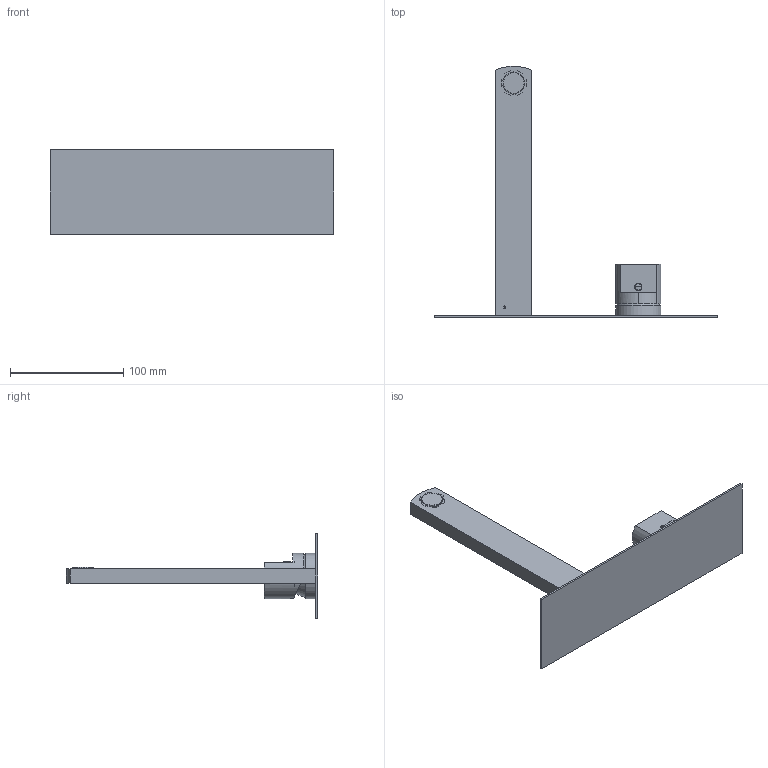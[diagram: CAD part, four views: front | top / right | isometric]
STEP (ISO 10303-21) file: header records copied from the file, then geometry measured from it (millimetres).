
FILE_DESCRIPTION((''),'2;1');
FILE_NAME('8954621_SW0001','2020-06-17T16:50:26',('carloff'),(''),'CREO PARAMETRIC BY PTC INC, 2018100','CREO PARAMETRIC BY PTC INC, 2018100','');
FILE_SCHEMA(('CONFIG_CONTROL_DESIGN'));
Length unit declared in the file: millimetre
Products named in the file (1): 8954621_SW0001
Bounding box: 250 x 221.7 x 75 mm (x, y, z)
Volume: 169667.1 mm3; surface area: 70806.6 mm2
Topology: 1 solids, 2 shells, 187 faces, 481 edges, 299 vertices
Faces by surface type: plane 68, cylinder 64, cone 19, torus 16, sphere 10, bspline 10
Entity records: 6519 total; most frequent: CARTESIAN_POINT 1948, DIRECTION 957, ORIENTED_EDGE 954, EDGE_CURVE 477, AXIS2_PLACEMENT_3D 370, VERTEX_POINT 299, VECTOR 217, LINE 217
